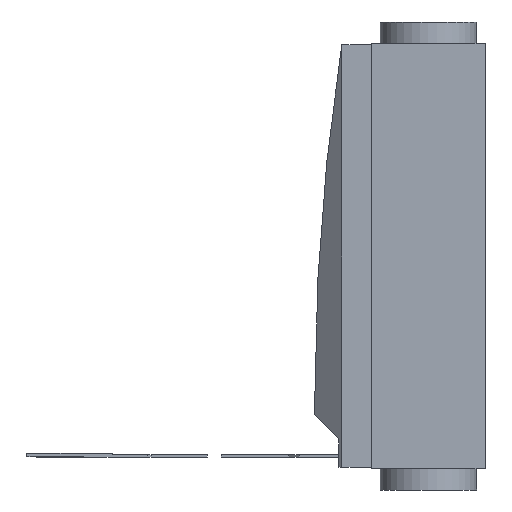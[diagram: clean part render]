
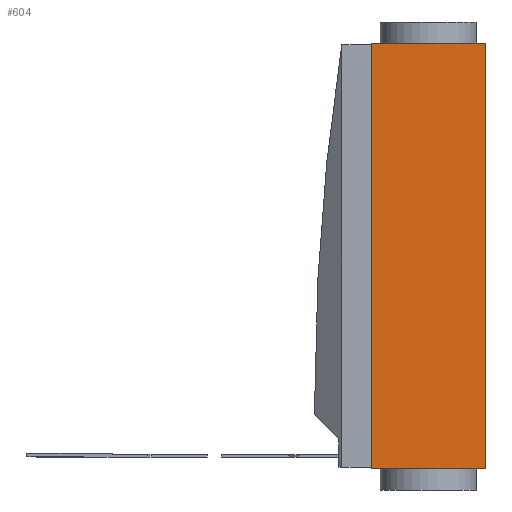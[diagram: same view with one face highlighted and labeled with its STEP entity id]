
A CAD part, left-side view. The second image highlights one B-rep face of the part: STEP entity #604.
In plain terms, the highlighted planar face has unit normal (-1, 0, 0).
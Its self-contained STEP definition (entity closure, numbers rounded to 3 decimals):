
#290=LINE('',#3124,#504);
#294=LINE('',#3139,#508);
#295=LINE('',#3141,#509);
#296=LINE('',#3143,#510);
#504=VECTOR('',#2300,1.);
#508=VECTOR('',#2316,1.);
#509=VECTOR('',#2317,1.);
#510=VECTOR('',#2318,1.);
#604=ADVANCED_FACE('',(#785),#696,.T.);
#696=PLANE('',#1949);
#785=FACE_OUTER_BOUND('',#885,.T.);
#885=EDGE_LOOP('',(#1320,#1321,#1322,#1323));
#1320=ORIENTED_EDGE('',*,*,#1808,.F.);
#1321=ORIENTED_EDGE('',*,*,#1801,.F.);
#1322=ORIENTED_EDGE('',*,*,#1809,.T.);
#1323=ORIENTED_EDGE('',*,*,#1810,.T.);
#1567=VERTEX_POINT('',#3119);
#1569=VERTEX_POINT('',#3123);
#1575=VERTEX_POINT('',#3140);
#1576=VERTEX_POINT('',#3142);
#1801=EDGE_CURVE('',#1569,#1567,#290,.T.);
#1808=EDGE_CURVE('',#1567,#1575,#294,.T.);
#1809=EDGE_CURVE('',#1569,#1576,#295,.T.);
#1810=EDGE_CURVE('',#1576,#1575,#296,.T.);
#1949=AXIS2_PLACEMENT_3D('',#3144,#2319,#2320);
#2300=DIRECTION('',(0.,0.,1.));
#2316=DIRECTION('',(0.,-1.,0.));
#2317=DIRECTION('',(0.,-1.,0.));
#2318=DIRECTION('',(0.,0.,1.));
#2319=DIRECTION('',(-1.,0.,0.));
#2320=DIRECTION('',(0.,-1.,0.));
#3119=CARTESIAN_POINT('',(-4.,4.,-1.5));
#3123=CARTESIAN_POINT('',(-4.,4.,-31.5));
#3124=CARTESIAN_POINT('',(-4.,4.,-31.5));
#3139=CARTESIAN_POINT('',(-4.,4.,-1.5));
#3140=CARTESIAN_POINT('',(-4.,-4.,-1.5));
#3141=CARTESIAN_POINT('',(-4.,4.,-31.5));
#3142=CARTESIAN_POINT('',(-4.,-4.,-31.5));
#3143=CARTESIAN_POINT('',(-4.,-4.,-31.5));
#3144=CARTESIAN_POINT('',(-4.,4.,-31.5));
